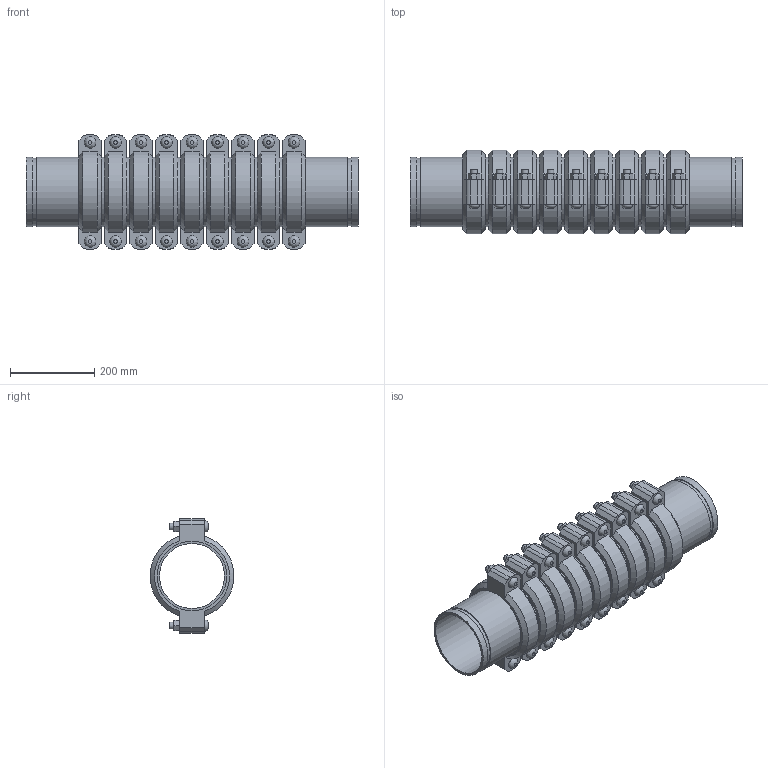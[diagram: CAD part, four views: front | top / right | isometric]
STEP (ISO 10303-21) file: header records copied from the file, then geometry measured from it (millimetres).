
FILE_DESCRIPTION(/* description */ ('VIC EXPANSION JOINT 9 COUPLINGS COMPRESSED STYLE 155 (OGS)','CAx-IF Rec.Pracs.---Representation and Presentation of Product Manufacturing Information (PMI)---4.0---2014-10-13'),/* implementation_level */ '2;1');
FILE_NAME(/* name */ 'C:\Users\kkamble\AppData\Roaming\Autodesk\ApplicationPlugins\Victaulic.Temp\A901\Victaulic_IPS_Expansion Joint_Compressed_9 Couplings_Style 155 (OGS)_06.0 (165.1) (150).stp',/* time_stamp */ '2021-06-27T00:38:50+02:00',/* author */ ('kkamble'),/* organization */ ('Victaulic'),/* preprocessor_version */ 'ST-DEVELOPER v17.2',/* originating_system */ 'Autodesk Inventor 2019',/* authorisation */ '');
FILE_SCHEMA (('AP242_MANAGED_MODEL_BASED_3D_ENGINEERING_MIM_LF { 1 0 10303 442 1 1 4 }'));
Length unit declared in the file: inch
Products named in the file (4): 155-06.0 (165.1); Nipple-06.0 (165.1); Nipple-06.0 (165.1)_1; 075_9_Coup-06.0 (165.1)
Assembly tree (19 placements, depth 2):
  155-06.0 (165.1)
    Nipple-06.0 (165.1)  x2
    Nipple-06.0 (165.1)_1  x8
    075_9_Coup-06.0 (165.1)  x9
Bounding box: 787.65 x 198.42 x 270.76 mm (x, y, z)
Volume: 8289217.5 mm3; surface area: 1861823.1 mm2
Topology: 19 solids, 37 shells, 633 faces, 1497 edges, 1050 vertices
Faces by surface type: plane 384, cylinder 195, cone 36, bspline 18
Full cylindrical faces by diameter (mm): 15.875 x36, 17.424 x18, 153.975 x10, 158.75 x9, 160.782 x20, 165.1 x48
Entity records: 2874 total; most frequent: CARTESIAN_POINT 503, DIRECTION 481, ORIENTED_EDGE 386, AXIS2_PLACEMENT_3D 194, EDGE_CURVE 193, VERTEX_POINT 138, EDGE_LOOP 107, LINE 93
